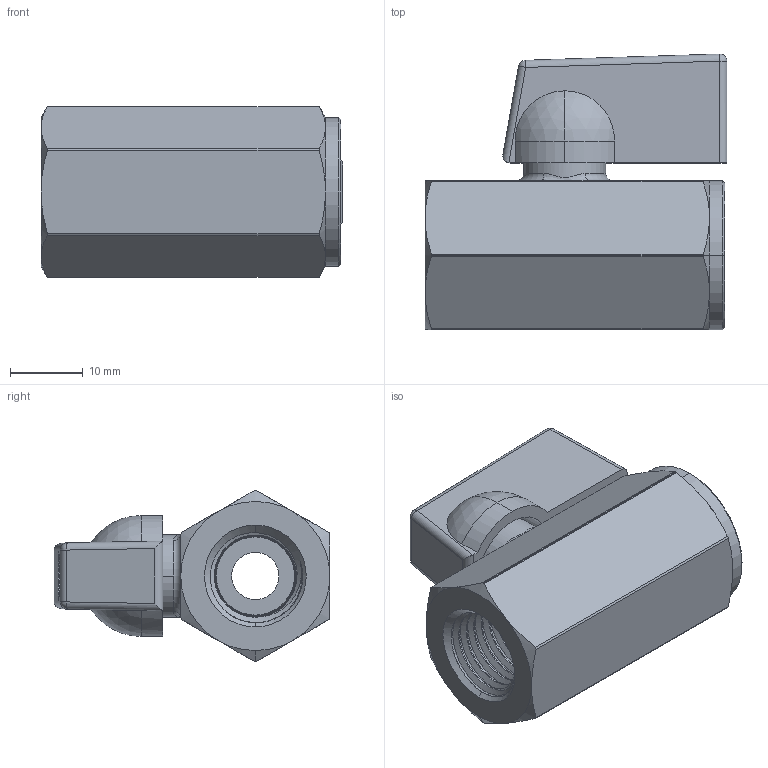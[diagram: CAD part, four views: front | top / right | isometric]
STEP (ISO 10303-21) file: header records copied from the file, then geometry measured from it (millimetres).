
FILE_DESCRIPTION (( 'STEP AP214' ), '1' );
FILE_NAME ('100-431.STEP', '2025-11-06T16:36:49', ( '' ), ( '' ), 'SwSTEP 2.0', 'SolidWorks 2025', '' );
FILE_SCHEMA (( 'AUTOMOTIVE_DESIGN' ));
Length unit declared in the file: inch
Products named in the file (10): 1060___1.STEP; 1060.STEP; O-ring_11.STEP; 12_______9.STEP; 14___9.STEP; _____11.STEP; 31_______11.STEP; 1051_____11.STEP; 100-431; 1062___2.STEP
Assembly tree (11 placements, depth 3):
  100-431
    1060.STEP
      1051_____11.STEP
      12_______9.STEP  x2
      14___9.STEP
      31_______11.STEP
      O-ring_11.STEP  x2
      _____11.STEP
      1060___1.STEP
      1062___2.STEP
Bounding box: 41.5 x 37.92 x 23.5 mm (x, y, z)
Volume: 14516.2 mm3; surface area: 13422.5 mm2
Topology: 10 solids, 10 shells, 384 faces, 962 edges, 607 vertices
Faces by surface type: cylinder 132, plane 92, cone 78, bspline 34, torus 28, sphere 20
Entity records: 26152 total; most frequent: CARTESIAN_POINT 17538, ORIENTED_EDGE 1836, DIRECTION 1672, EDGE_CURVE 918, AXIS2_PLACEMENT_3D 681, VERTEX_POINT 583, EDGE_LOOP 391, FACE_OUTER_BOUND 364
